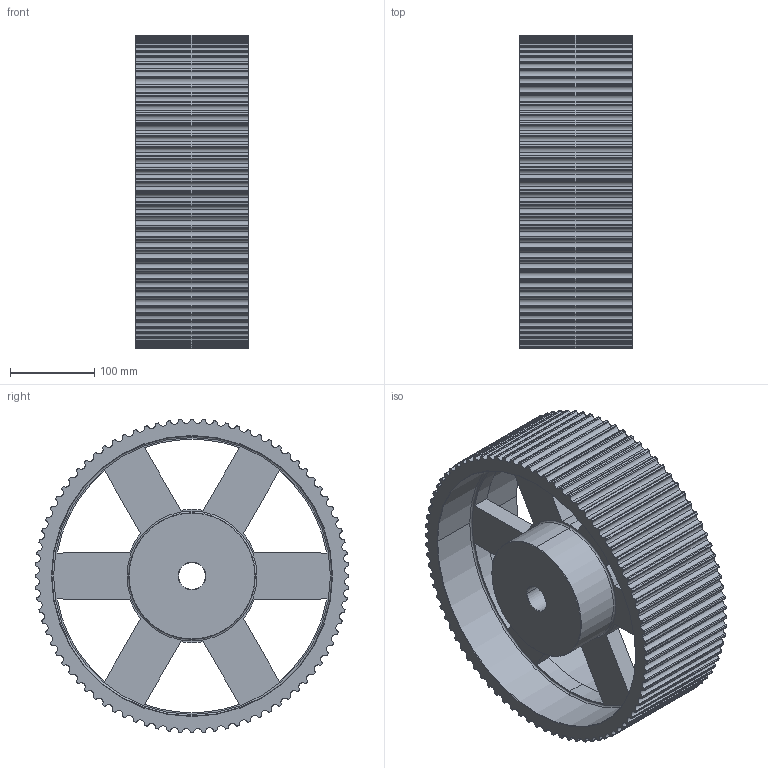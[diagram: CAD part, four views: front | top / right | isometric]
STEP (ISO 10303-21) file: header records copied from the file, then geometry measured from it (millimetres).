
FILE_DESCRIPTION(('STEP AP203'),'1');
FILE_NAME('84_-_14_m_115.stp','2022-04-28T08:35:02',('TraceParts'),('TraceParts S.A.'),'Spatial InterOp 3D',' ',' ');
FILE_SCHEMA(('CONFIG_CONTROL_DESIGN'));
Length unit declared in the file: millimetre
Products named in the file (1): 1
Bounding box: 133 x 371.54 x 371.54 mm (x, y, z)
Volume: 5414513 mm3; surface area: 564042.4 mm2
Topology: 1 solids, 1 shells, 484 faces, 1422 edges, 944 vertices
Faces by surface type: cylinder 446, plane 18, cone 12, torus 8
Entity records: 16730 total; most frequent: DIRECTION 3320, CARTESIAN_POINT 2851, ORIENTED_EDGE 2844, EDGE_CURVE 1422, AXIS2_PLACEMENT_3D 1413, VERTEX_POINT 944, CIRCLE 928, EDGE_LOOP 502
